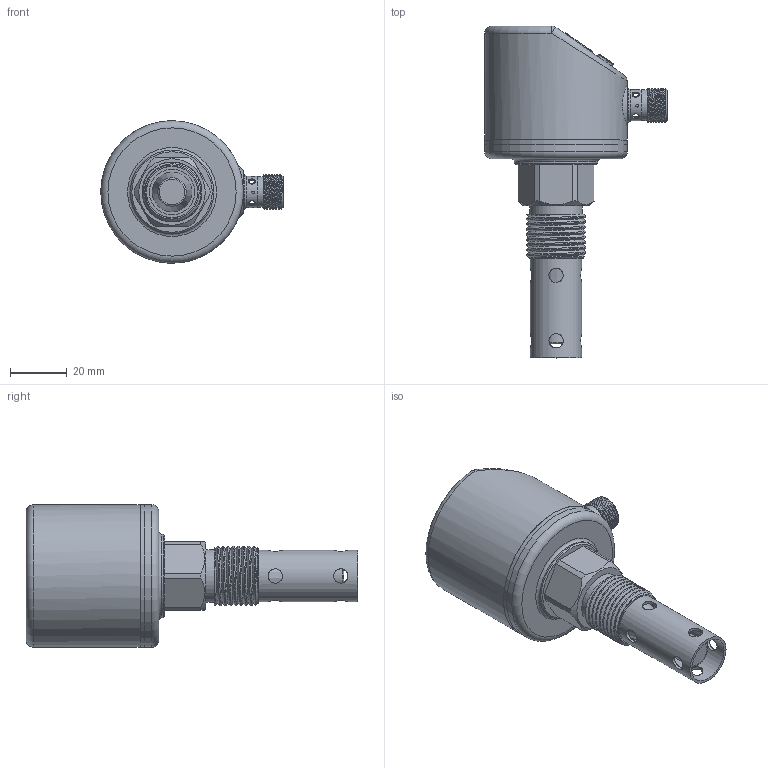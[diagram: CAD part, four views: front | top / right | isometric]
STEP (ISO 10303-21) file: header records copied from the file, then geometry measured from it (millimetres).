
FILE_DESCRIPTION (( 'STEP AP214' ), '1' );
FILE_NAME ('1-2数显电容-30（同轴）.STEP', '2025-03-11T05:41:38', ( '' ), ( '' ), 'SwSTEP 2.0', 'SolidWorks 2020', '' );
FILE_SCHEMA (( 'AUTOMOTIVE_DESIGN' ));
Length unit declared in the file: millimetre
Products named in the file (9): 偌瑩簽; 滅阨諉芛褲极1; 恦謫抻芛5; PVC躇猾菜; 1-2数显电容-30（同轴）; 抻芛ㄗ蟀哿講ㄘ; 揤薯奻裔; 揤薯珆尨欶; 肮粣奪
Assembly tree (10 placements, depth 2):
  1-2数显电容-30（同轴）
    揤薯奻裔
    揤薯珆尨欶
    滅阨諉芛褲极1
    偌瑩簽  x3
    PVC躇猾菜
    恦謫抻芛5
    抻芛ㄗ蟀哿講ㄘ
    肮粣奪
Bounding box: 64 x 116.5 x 50 mm (x, y, z)
Volume: 30455.7 mm3; surface area: 36672.4 mm2
Topology: 10 solids, 10 shells, 306 faces, 720 edges, 466 vertices
Faces by surface type: plane 126, cylinder 115, cone 39, bspline 11, torus 11, sphere 4
Full cylindrical faces by diameter (mm): 1 x4, 1.2 x3, 1.8 x1, 2 x3, 2.5 x4, 2.8 x1, 4.3 x3, 4.5 x6, 5 x8, 6 x1, 7.2 x1, 8 x1, 8.5 x1, 9.75 x1, 10 x1, 10.49 x1, 10.5 x1, 10.8 x1, 10.9 x1, 11 x2, 12 x1, 16 x1, 18 x1, 18.5 x1, 21 x1, 29.24 x1, 35 x1, 43.9 x1, 45.4 x1, 45.6 x2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
Entity records: 13745 total; most frequent: CARTESIAN_POINT 7166, DIRECTION 1284, ORIENTED_EDGE 1072, EDGE_CURVE 536, AXIS2_PLACEMENT_3D 523, EDGE_LOOP 458, VERTEX_POINT 398, FACE_OUTER_BOUND 344
